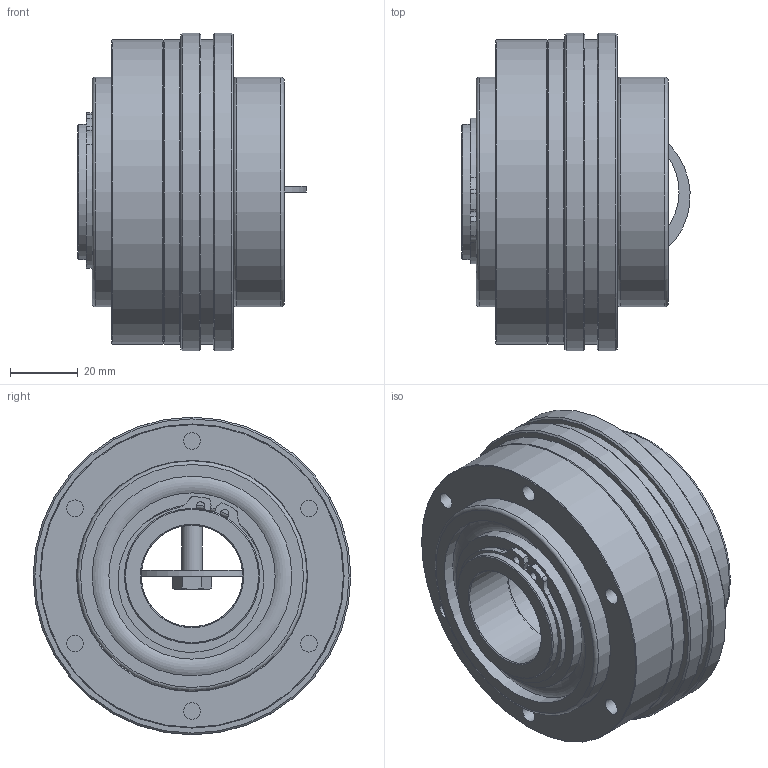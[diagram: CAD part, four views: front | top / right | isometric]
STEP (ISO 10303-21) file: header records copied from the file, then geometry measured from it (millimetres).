
FILE_DESCRIPTION( ( 'Unknown' ), '1' );
FILE_NAME( 'C:/Dokumente und Einstellungen/Sven/Desktop/hp kbk/KBK L-I-150.stp', 'Unknown', ( 'Unknown' ), ( 'Unknown' ), 'XStep 1.0', 'Unknown', ' ' );
FILE_SCHEMA( ( 'automotive_design' ) );
Length unit declared in the file: millimetre
Products named in the file (12): Assem1; Assem2; ball_bearing_-_6008_0_01; ball_bearing_-_6008_0_02; ball_bearing_-_6008_0_03; Stellring 80; Druckring 80; a_40; KBK L-I-80 Grundkörper; Konusbuchse 80; Flansch 80; din_en_24017_m6x25
Bounding box: 67.52 x 94 x 94 mm (x, y, z)
Volume: 429646.3 mm3; surface area: 204912.2 mm2
Topology: 28 solids, 28 shells, 505 faces, 1076 edges, 688 vertices
Faces by surface type: plane 203, cylinder 148, cone 122, torus 32
Full cylindrical faces by diameter (mm): 2.5 x4, 3.242 x6, 4.917 x30, 5 x8, 5.2 x6, 6 x7, 6.6 x12, 8.8 x7, 30 x4, 37.5 x2, 40 x7, 41 x2, 49.2 x6, 59.1 x6, 59.5 x2, 61 x2, 62 x4, 68 x5, 70 x2, 85 x2, 87 x2, 90 x4, 94 x2
Entity records: 5161 total; most frequent: CARTESIAN_POINT 1142, DIRECTION 854, ORIENTED_EDGE 558, AXIS2_PLACEMENT_3D 395, EDGE_LOOP 352, EDGE_CURVE 279, FACE_OUTER_BOUND 255, VERTEX_POINT 231
